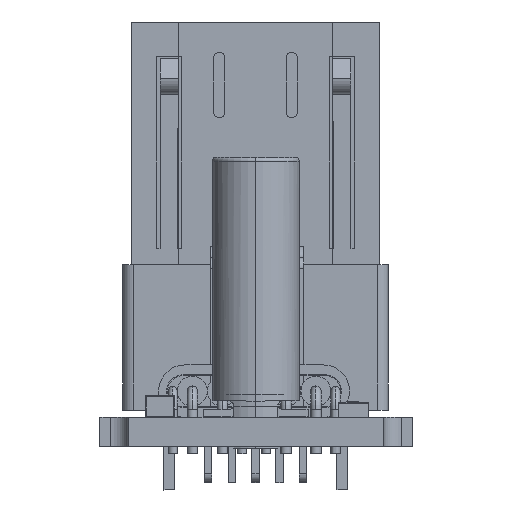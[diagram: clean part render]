
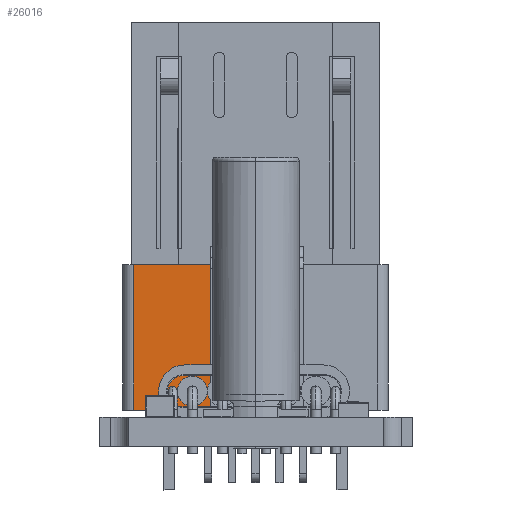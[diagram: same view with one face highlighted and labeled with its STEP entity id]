
A CAD part, front view. The second image highlights one B-rep face of the part: STEP entity #26016.
In plain terms, the highlighted planar face has unit normal (0, -1, 0) as drawn and (0, 1, 0) by its records, which use the part's own axes.
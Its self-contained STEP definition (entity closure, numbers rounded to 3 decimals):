
#24937 = VERTEX_POINT('',#24938);
#24938 = CARTESIAN_POINT('',(5.89,0.77,
    6.2));
#24945 = EDGE_CURVE('',#24946,#24937,#24948,.T.);
#24946 = VERTEX_POINT('',#24947);
#24947 = CARTESIAN_POINT('',(3.776,0.77,
    6.2));
#24948 = LINE('',#24949,#24950);
#24949 = CARTESIAN_POINT('',(-1.11,0.77,
    6.2));
#24950 = VECTOR('',#24951,1.);
#24951 = DIRECTION('',(1.,0.,0.));
#25138 = VERTEX_POINT('',#25139);
#25139 = CARTESIAN_POINT('',(5.89,0.77,
    2.2));
#25146 = EDGE_CURVE('',#25147,#25138,#25149,.T.);
#25147 = VERTEX_POINT('',#25148);
#25148 = CARTESIAN_POINT('',(3.776,0.77,
    2.2));
#25149 = LINE('',#25150,#25151);
#25150 = CARTESIAN_POINT('',(-1.11,0.77,
    2.2));
#25151 = VECTOR('',#25152,1.);
#25152 = DIRECTION('',(1.,0.,0.));
#25317 = EDGE_CURVE('',#24937,#25138,#25318,.T.);
#25318 = LINE('',#25319,#25320);
#25319 = CARTESIAN_POINT('',(5.89,0.77,
    2.2));
#25320 = VECTOR('',#25321,1.);
#25321 = DIRECTION('',(0.,0.,-1.));
#25767 = EDGE_CURVE('',#24946,#25147,#25768,.T.);
#25768 = LINE('',#25769,#25770);
#25769 = CARTESIAN_POINT('',(3.776,0.77,
    6.2));
#25770 = VECTOR('',#25771,1.);
#25771 = DIRECTION('',(0.,0.,-1.));
#26016 = ADVANCED_FACE('',(#26017),#26023,.F.);
#26017 = FACE_BOUND('',#26018,.T.);
#26018 = EDGE_LOOP('',(#26019,#26020,#26021,#26022));
#26019 = ORIENTED_EDGE('',*,*,#24945,.T.);
#26020 = ORIENTED_EDGE('',*,*,#25317,.T.);
#26021 = ORIENTED_EDGE('',*,*,#25146,.F.);
#26022 = ORIENTED_EDGE('',*,*,#25767,.F.);
#26023 = PLANE('',#26024);
#26024 = AXIS2_PLACEMENT_3D('',#26025,#26026,#26027);
#26025 = CARTESIAN_POINT('',(-1.11,0.77,
    2.2));
#26026 = DIRECTION('',(0.,-1.,0.));
#26027 = DIRECTION('',(1.,0.,0.));
